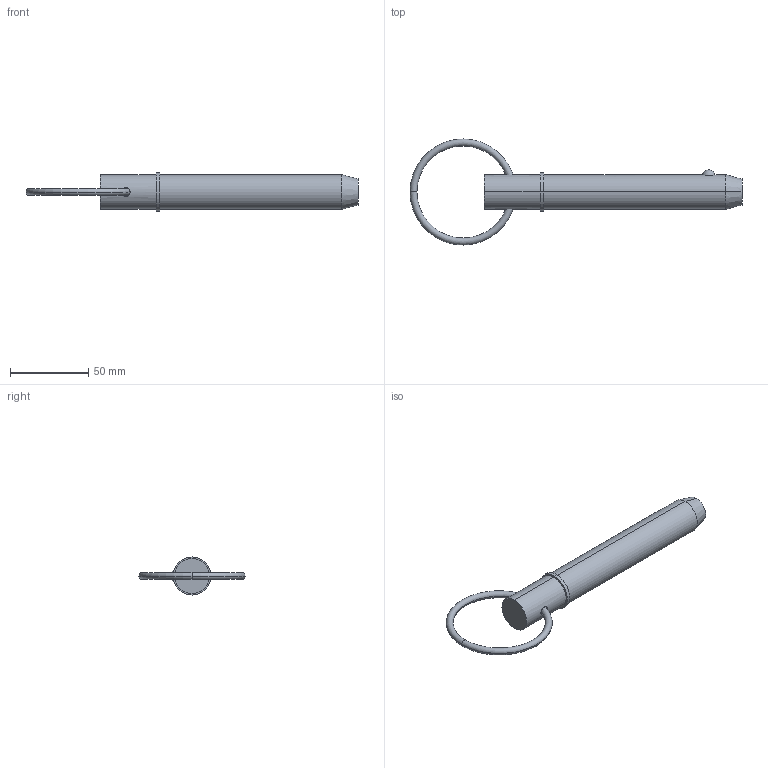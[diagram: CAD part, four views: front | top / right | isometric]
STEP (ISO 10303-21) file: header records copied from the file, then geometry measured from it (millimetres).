
FILE_DESCRIPTION (( 'STEP AP203' ), '1' );
FILE_NAME ('33014.W8840.step', '2024-11-04T08:37:44', ( '' ), ( '' ), 'SwSTEP 2.0', 'SolidWorks 2019', '' );
FILE_SCHEMA (( 'CONFIG_CONTROL_DESIGN' ));
Length unit declared in the file: millimetre
Products named in the file (3): 33014.W8840; Part1_33014.W8840; Part2_33014.W8840
Assembly tree (2 placements, depth 2):
  33014.W8840
    Part1_33014.W8840
    Part2_33014.W8840
Bounding box: 212.71 x 67.95 x 24.45 mm (x, y, z)
Volume: 65992.1 mm3; surface area: 15408.4 mm2
Topology: 2 solids, 2 shells, 22 faces, 43 edges, 26 vertices
Faces by surface type: torus 8, cylinder 6, plane 4, sphere 2, cone 2
Entity records: 1065 total; most frequent: CARTESIAN_POINT 288, DIRECTION 120, ORIENTED_EDGE 86, AXIS2_PLACEMENT_3D 56, EDGE_CURVE 43, CIRCLE 29, EDGE_LOOP 27, VERTEX_POINT 26
